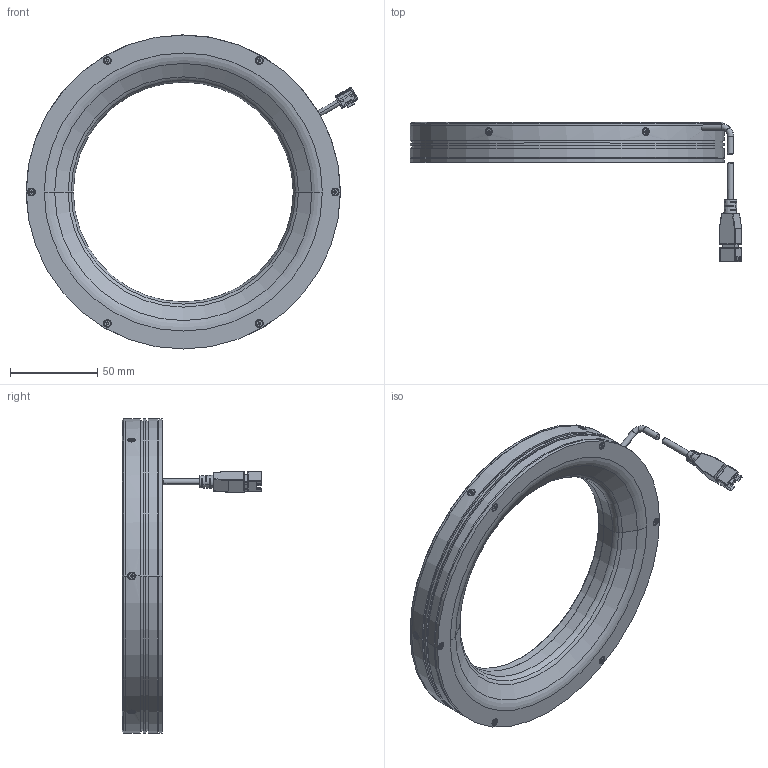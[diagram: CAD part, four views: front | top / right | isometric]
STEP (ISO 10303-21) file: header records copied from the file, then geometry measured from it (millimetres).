
FILE_DESCRIPTION((''),'2;1');
FILE_NAME('MV-LRDS-180-60_ASM','2019-09-19T',('rs-zhongwm'),(''),'PRO/ENGINEER BY PARAMETRIC TECHNOLOGY CORPORATION, 2010100','PRO/ENGINEER BY PARAMETRIC TECHNOLOGY CORPORATION, 2010100','');
FILE_SCHEMA(('CONFIG_CONTROL_DESIGN'));
Length unit declared in the file: millimetre
Products named in the file (9): P-RL-180-60-001_4; P-RL-180-60-002_2; P-RL-180-60-003_1; P-RL-180-60-004_2; PRT0058; PRT0059; ASM0031_ASM; PRT0060; MV-LRDS-180-60_ASM
Assembly tree (19 placements, depth 3):
  MV-LRDS-180-60_ASM
    P-RL-180-60-001_4
    P-RL-180-60-002_2
    P-RL-180-60-003_1
    P-RL-180-60-004_2
    ASM0031_ASM
      PRT0058
      PRT0059
    PRT0060  x12
Bounding box: 189.99 x 80.1 x 180 mm (x, y, z)
Volume: 164404.9 mm3; surface area: 125011.6 mm2
Topology: 18 solids, 18 shells, 756 faces, 1912 edges, 1188 vertices
Faces by surface type: plane 334, cylinder 266, cone 96, bspline 22, torus 22, sphere 16
Entity records: 16038 total; most frequent: CARTESIAN_POINT 4229, DIRECTION 2504, ORIENTED_EDGE 2364, EDGE_CURVE 1182, AXIS2_PLACEMENT_3D 942, VERTEX_POINT 748, VECTOR 620, LINE 620
